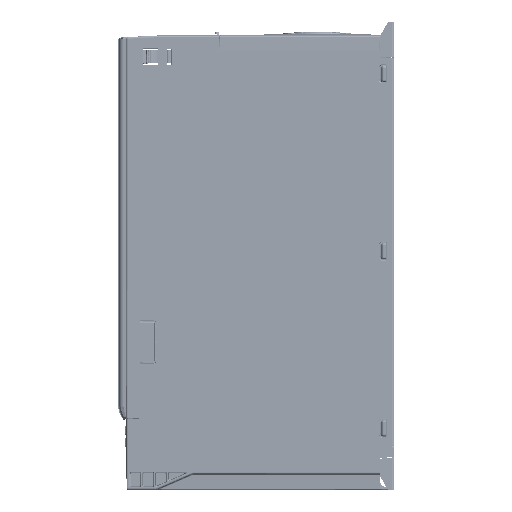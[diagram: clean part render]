
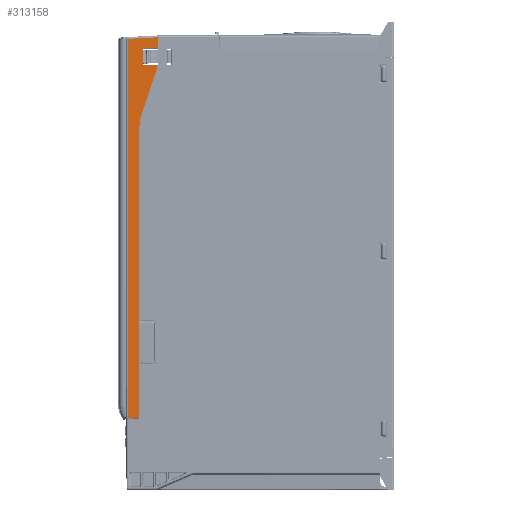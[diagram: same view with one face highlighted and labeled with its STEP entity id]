
A CAD part, left-side view. The second image highlights one B-rep face of the part: STEP entity #313158.
In plain terms, the highlighted planar face has unit normal (-1, 0, 0).
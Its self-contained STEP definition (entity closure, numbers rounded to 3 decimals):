
#33250=FACE_OUTER_BOUND('',#51487,.T.);
#51487=EDGE_LOOP('',(#278270,#278271,#278272,#278273,#278274,#278275,#278276,
#278277,#278278,#278279,#278280,#278281,#278282));
#81912=LINE('',#604247,#113063);
#81914=LINE('',#604252,#113065);
#81918=LINE('',#604264,#113069);
#81919=LINE('',#604266,#113070);
#81920=LINE('',#604268,#113071);
#81921=LINE('',#604272,#113072);
#81922=LINE('',#604276,#113073);
#81923=LINE('',#604280,#113074);
#81924=LINE('',#604282,#113075);
#113063=VECTOR('',#409725,11.498);
#113065=VECTOR('',#409731,10.);
#113069=VECTOR('',#409741,310.62);
#113070=VECTOR('',#409742,9.501);
#113071=VECTOR('',#409743,238.398);
#113072=VECTOR('',#409746,37.698);
#113073=VECTOR('',#409749,11.173);
#113074=VECTOR('',#409752,10.261);
#113075=VECTOR('',#409755,24.534);
#119760=CIRCLE('',#335915,30.5);
#119761=CIRCLE('',#335916,29.5);
#119762=CIRCLE('',#335917,1.002);
#119763=CIRCLE('',#335918,1.002);
#146904=VERTEX_POINT('',#604244);
#146905=VERTEX_POINT('',#604246);
#146906=VERTEX_POINT('',#604250);
#146910=VERTEX_POINT('',#604262);
#146911=VERTEX_POINT('',#604263);
#146912=VERTEX_POINT('',#604265);
#146913=VERTEX_POINT('',#604267);
#146914=VERTEX_POINT('',#604269);
#146915=VERTEX_POINT('',#604271);
#146916=VERTEX_POINT('',#604273);
#146917=VERTEX_POINT('',#604275);
#146918=VERTEX_POINT('',#604277);
#146919=VERTEX_POINT('',#604279);
#191008=EDGE_CURVE('',#146905,#146904,#81912,.T.);
#191011=EDGE_CURVE('',#146906,#146904,#81914,.T.);
#191016=EDGE_CURVE('',#146910,#146911,#81918,.T.);
#191017=EDGE_CURVE('',#146912,#146910,#81919,.T.);
#191018=EDGE_CURVE('',#146912,#146913,#81920,.T.);
#191019=EDGE_CURVE('',#146913,#146914,#119760,.T.);
#191020=EDGE_CURVE('',#146914,#146915,#81921,.T.);
#191021=EDGE_CURVE('',#146915,#146916,#119761,.T.);
#191022=EDGE_CURVE('',#146916,#146917,#81922,.T.);
#191023=EDGE_CURVE('',#146917,#146918,#119762,.T.);
#191024=EDGE_CURVE('',#146918,#146919,#81923,.T.);
#191025=EDGE_CURVE('',#146919,#146905,#119763,.T.);
#191026=EDGE_CURVE('',#146911,#146906,#81924,.T.);
#278270=ORIENTED_EDGE('',*,*,#191016,.F.);
#278271=ORIENTED_EDGE('',*,*,#191017,.F.);
#278272=ORIENTED_EDGE('',*,*,#191018,.T.);
#278273=ORIENTED_EDGE('',*,*,#191019,.T.);
#278274=ORIENTED_EDGE('',*,*,#191020,.T.);
#278275=ORIENTED_EDGE('',*,*,#191021,.T.);
#278276=ORIENTED_EDGE('',*,*,#191022,.T.);
#278277=ORIENTED_EDGE('',*,*,#191023,.T.);
#278278=ORIENTED_EDGE('',*,*,#191024,.T.);
#278279=ORIENTED_EDGE('',*,*,#191025,.T.);
#278280=ORIENTED_EDGE('',*,*,#191008,.T.);
#278281=ORIENTED_EDGE('',*,*,#191011,.F.);
#278282=ORIENTED_EDGE('',*,*,#191026,.F.);
#293794=PLANE('',#335914);
#313158=ADVANCED_FACE('',(#33250),#293794,.T.);
#335914=AXIS2_PLACEMENT_3D('',#604261,#409739,#409740);
#335915=AXIS2_PLACEMENT_3D('',#604270,#409744,#409745);
#335916=AXIS2_PLACEMENT_3D('',#604274,#409747,#409748);
#335917=AXIS2_PLACEMENT_3D('',#604278,#409750,#409751);
#335918=AXIS2_PLACEMENT_3D('',#604281,#409753,#409754);
#409725=DIRECTION('',(0.,-1.,0.));
#409731=DIRECTION('',(0.,0.,-1.));
#409739=DIRECTION('center_axis',(-1.,0.,0.));
#409740=DIRECTION('ref_axis',(0.,0.,1.));
#409741=DIRECTION('',(0.,0.,1.));
#409742=DIRECTION('',(0.,1.,-0.017));
#409743=DIRECTION('',(0.,0.,1.));
#409744=DIRECTION('center_axis',(1.,0.,0.));
#409745=DIRECTION('ref_axis',(0.,1.,0.));
#409746=DIRECTION('',(0.,-0.316,0.949));
#409747=DIRECTION('center_axis',(-1.,0.,0.));
#409748=DIRECTION('ref_axis',(0.,-0.949,-0.316));
#409749=DIRECTION('',(0.,1.,0.));
#409750=DIRECTION('center_axis',(1.,0.,0.));
#409751=DIRECTION('ref_axis',(0.,0.,-1.));
#409752=DIRECTION('',(0.,0.,1.));
#409753=DIRECTION('center_axis',(1.,0.,0.));
#409754=DIRECTION('ref_axis',(0.,0.501,-0.865));
#409755=DIRECTION('',(0.,-0.999,0.053));
#604244=CARTESIAN_POINT('',(-71.,193.5,170.));
#604246=CARTESIAN_POINT('',(-71.,204.998,170.));
#604247=CARTESIAN_POINT('',(-71.,204.998,170.));
#604250=CARTESIAN_POINT('',(-71.,193.5,178.985));
#604252=CARTESIAN_POINT('',(-71.,193.5,-15.566));
#604261=CARTESIAN_POINT('Origin',(-71.,0.,-191.5));
#604262=CARTESIAN_POINT('',(-71.,218.,-132.932));
#604263=CARTESIAN_POINT('',(-71.,218.,177.688));
#604264=CARTESIAN_POINT('',(-71.,218.,-132.932));
#604265=CARTESIAN_POINT('',(-71.,208.5,-132.767));
#604266=CARTESIAN_POINT('',(-71.,208.5,-132.767));
#604267=CARTESIAN_POINT('',(-71.,208.5,105.632));
#604268=CARTESIAN_POINT('',(-71.,208.5,-132.767));
#604269=CARTESIAN_POINT('',(-71.,206.935,115.277));
#604270=CARTESIAN_POINT('Origin',(-71.,178.,105.632));
#604271=CARTESIAN_POINT('',(-71.,195.014,151.04));
#604272=CARTESIAN_POINT('',(-71.,206.935,115.277));
#604273=CARTESIAN_POINT('',(-71.,193.825,156.));
#604274=CARTESIAN_POINT('Origin',(-71.,223.,160.368));
#604275=CARTESIAN_POINT('',(-71.,204.998,156.));
#604276=CARTESIAN_POINT('',(-71.,193.825,156.));
#604277=CARTESIAN_POINT('',(-71.,205.5,157.869));
#604278=CARTESIAN_POINT('Origin',(-71.,204.998,157.002));
#604279=CARTESIAN_POINT('',(-71.,205.5,168.131));
#604280=CARTESIAN_POINT('',(-71.,205.5,157.869));
#604281=CARTESIAN_POINT('Origin',(-71.,204.998,168.998));
#604282=CARTESIAN_POINT('',(-71.,218.,177.688));
